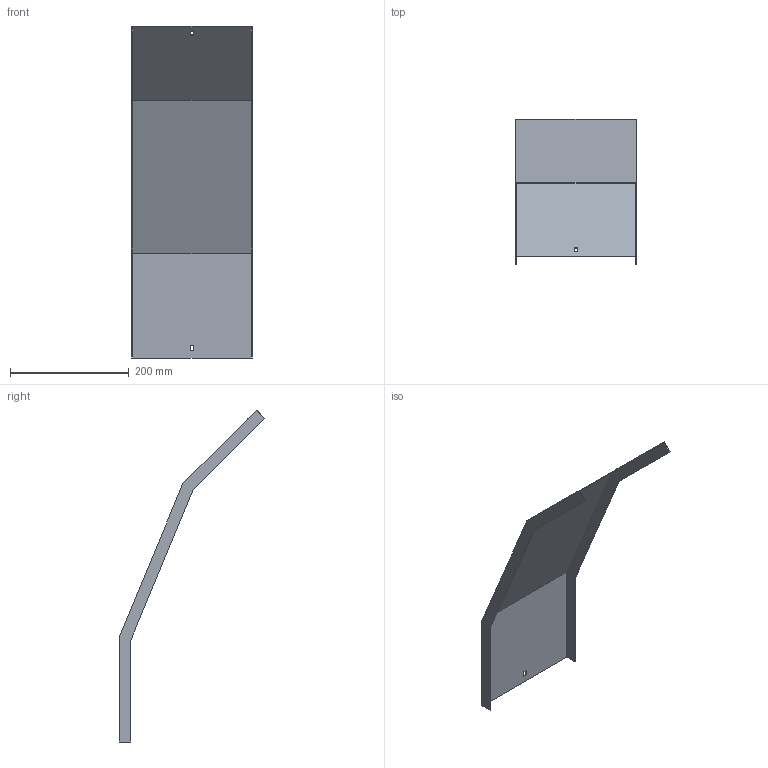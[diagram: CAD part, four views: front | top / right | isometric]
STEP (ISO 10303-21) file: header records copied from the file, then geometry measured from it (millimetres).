
FILE_DESCRIPTION (( 'STEP AP214' ), '1' );
FILE_NAME ('A2_34N3J200.step', '2025-02-21T10:35:17', ( '' ), ( '' ), 'SwSTEP 2.0', 'SolidWorks 2023', '' );
FILE_SCHEMA (( 'AUTOMOTIVE_DESIGN' ));
Length unit declared in the file: millimetre
Products named in the file (1): A2_34N3J200
Bounding box: 203 x 246.09 x 559.98 mm (x, y, z)
Volume: 227016.8 mm3; surface area: 305354.8 mm2
Topology: 1 solids, 1 shells, 26 faces, 72 edges, 48 vertices
Faces by surface type: plane 26
Entity records: 847 total; most frequent: CARTESIAN_POINT 147, ORIENTED_EDGE 144, DIRECTION 126, VECTOR 72, LINE 72, EDGE_CURVE 72, VERTEX_POINT 48, EDGE_LOOP 30
